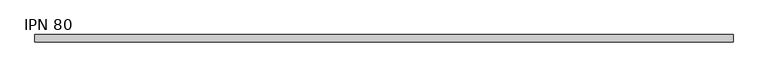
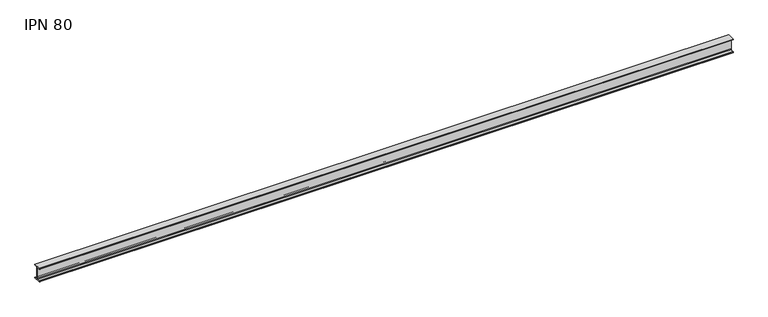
"""IFC4 building model written with IfcOpenShell, lengths in millimetres: beam geometry, IPN - Secciones en I con alas cónicas : IPN 80."""

from ifc_helpers import new_model, si_unit, point, frame, frame_2d, origin, place, context, project, spatial, polyline, circle_curve, trimmed, segment, composite_curve, outline, extrude, source, transform, mapped, element, save


def ipn_80_3f087a86(model_context):
    return source(origin(), model_context, "Body", "SweptSolid", [
        extrude(outline(composite_curve([segment(polyline([(21.0, 40.0), (21.0, 37.5704306)]), True, "CONTINUOUS"), segment(trimmed(circle_curve(frame_2d((18.7, 37.5704306)), 2.3), [point((21.0, 37.5704306))], [point((19.01889, 35.2926446))], False, "CARTESIAN"), True, "CONTINUOUS"), segment(polyline([(19.01889, 35.2926446), (5.3092734, 33.3732983)]), True, "CONTINUOUS"), segment(trimmed(circle_curve(frame_2d((5.85, 29.5109655)), 3.9), [point((5.3092734, 33.3732983))], [point((1.95, 29.5109655))], True, "CARTESIAN"), True, "CONTINUOUS"), segment(polyline([(1.95, 29.5109655), (1.95, -29.5109655)]), True, "CONTINUOUS"), segment(trimmed(circle_curve(frame_2d((5.85, -29.5109655)), 3.9), [point((1.95, -29.5109655))], [point((5.3092734, -33.3732983))], True, "CARTESIAN"), True, "CONTINUOUS"), segment(polyline([(5.3092734, -33.3732983), (19.01889, -35.2926446)]), True, "CONTINUOUS"), segment(trimmed(circle_curve(frame_2d((18.7, -37.5704306)), 2.3), [point((19.01889, -35.2926446))], [point((21.0, -37.5704306))], False, "CARTESIAN"), True, "CONTINUOUS"), segment(polyline([(21.0, -37.5704306), (21.0, -40.0), (-21.0, -40.0), (-21.0, -37.5704306)]), True, "CONTINUOUS"), segment(trimmed(circle_curve(frame_2d((-18.7, -37.5704306)), 2.3), [point((-21.0, -37.5704306))], [point((-19.01889, -35.2926446))], False, "CARTESIAN"), True, "CONTINUOUS"), segment(polyline([(-19.01889, -35.2926446), (-5.3092734, -33.3732983)]), True, "CONTINUOUS"), segment(trimmed(circle_curve(frame_2d((-5.85, -29.5109655)), 3.9), [point((-5.3092734, -33.3732983))], [point((-1.95, -29.5109655))], True, "CARTESIAN"), True, "CONTINUOUS"), segment(polyline([(-1.95, -29.5109655), (-1.95, 29.5109655)]), True, "CONTINUOUS"), segment(trimmed(circle_curve(frame_2d((-5.85, 29.5109655)), 3.9), [point((-1.95, 29.5109655))], [point((-5.3092734, 33.3732983))], True, "CARTESIAN"), True, "CONTINUOUS"), segment(polyline([(-5.3092734, 33.3732983), (-19.01889, 35.2926446)]), True, "CONTINUOUS"), segment(trimmed(circle_curve(frame_2d((-18.7, 37.5704306)), 2.3), [point((-19.01889, 35.2926446))], [point((-21.0, 37.5704306))], False, "CARTESIAN"), True, "CONTINUOUS"), segment(polyline([(-21.0, 37.5704306), (-21.0, 40.0), (21.0, 40.0)]), True, "CONTINUOUS")], self_intersect=False)), frame((-1938.0, 0.0, 0.0), z_axis=(1.0, 0.0, 0.0), x_axis=(0.0, 1.0, 0.0)), (0.0, 0.0, 1.0), 3889.0),
    ])


if __name__ == "__main__":
    model = new_model("IFC4")
    model_context = context("Model", 3, world=origin())
    ifc_project = project(units=[si_unit("LENGTHUNIT", "METRE", prefix="MILLI")], contexts=[model_context])
    site = spatial("IfcSite", under=ifc_project)
    building = spatial("IfcBuilding", under=site)
    placement = place(None, origin())
    ipn_80_shape = ipn_80_3f087a86(model_context)
    element("IfcBeam", 1, ObjectType="IPN - Secciones en I con alas cónicas : IPN 80", at=placement, inside=building, context=model_context, shape_type="MappedRepresentation", body=[
        mapped(ipn_80_shape, transform((0.0, 0.0, 0.0), x_axis=(1.0, 0.0, 0.0), y_axis=(0.0, 1.0, 0.0), z_axis=(0.0, 0.0, 1.0))),
    ])
    save(model, "model.ifc")
